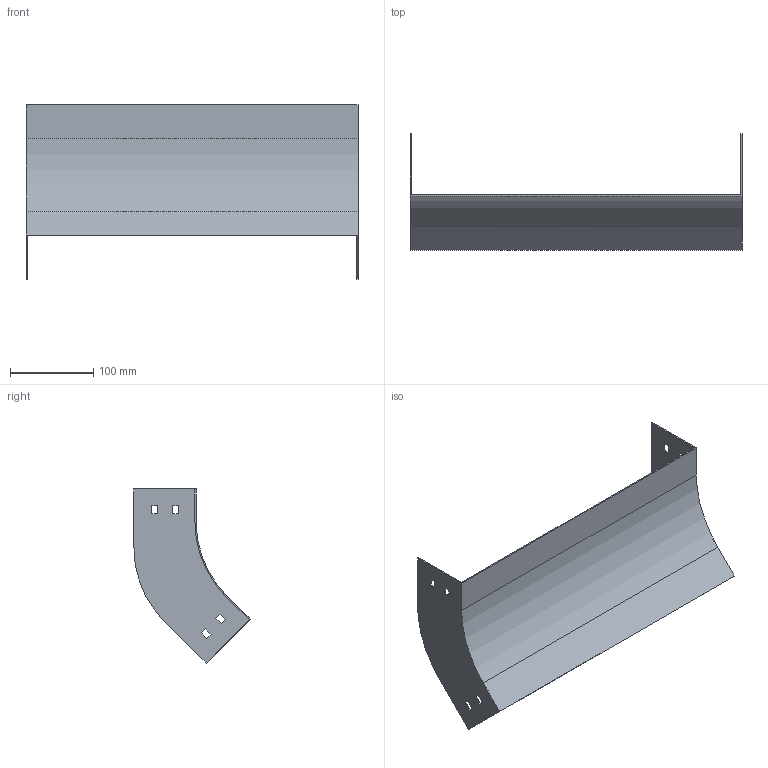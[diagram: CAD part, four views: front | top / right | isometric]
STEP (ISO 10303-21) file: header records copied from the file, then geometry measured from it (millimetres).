
FILE_DESCRIPTION (( 'STEP AP214' ), '1' );
FILE_NAME ('D4_407.step', '2025-07-16T09:07:39', ( '' ), ( '' ), 'SwSTEP 2.0', 'SolidWorks 2023', '' );
FILE_SCHEMA (( 'AUTOMOTIVE_DESIGN' ));
Length unit declared in the file: millimetre
Products named in the file (1): D4_407
Bounding box: 400 x 139.9 x 209.71 mm (x, y, z)
Volume: 153903.2 mm3; surface area: 207972.4 mm2
Topology: 1 solids, 1 shells, 50 faces, 144 edges, 96 vertices
Faces by surface type: plane 46, cylinder 4
Entity records: 1671 total; most frequent: CARTESIAN_POINT 291, ORIENTED_EDGE 288, DIRECTION 254, EDGE_CURVE 144, VECTOR 136, LINE 136, VERTEX_POINT 96, EDGE_LOOP 66
